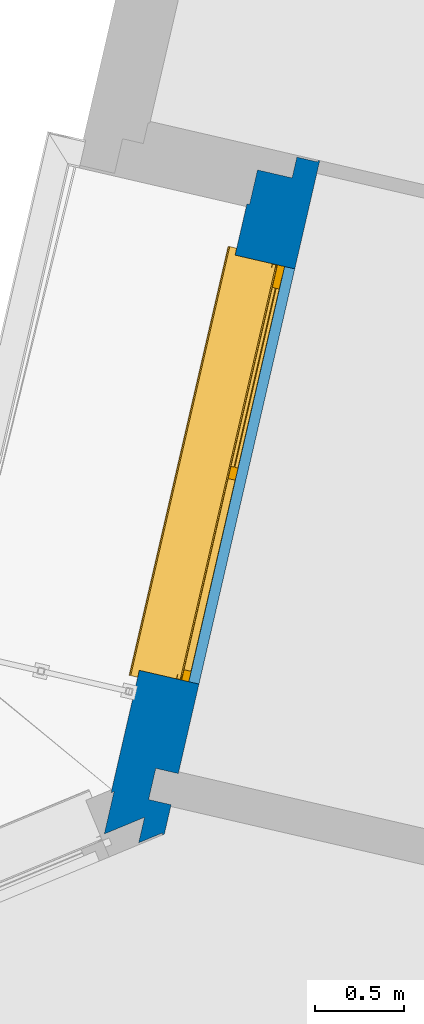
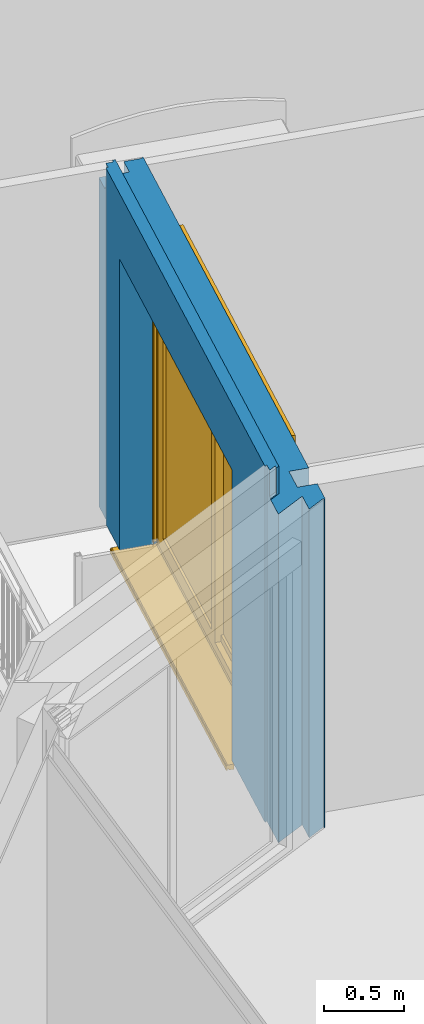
# One storey, part 22 of 90: 1 wall, 1 window, 1 opening.
"""IFC2X3 building model written with IfcOpenShell, lengths in metres."""

import ifcopenshell
import ifcopenshell.guid

model = None  # the IFC model being written
_history = None  # IfcOwnerHistory: only IFC2X3 demands one
_inside = {}  # id of a spatial element -> (the spatial element, [elements in it])
_under = {}  # id of a project, library or spatial element -> (it, [spatial elements below it])
_declared = {}  # id of a project -> (the project, [libraries it declares])
_typed = {}  # id of a type object -> (the type object, [elements of that type])
_made_of = {}  # id of a material, layer set ... -> (it, [elements and type objects made of it])


def new_model(schema):
    """Start an empty IFC model of exactly this schema.

    Asked for "IFC4X3", IfcOpenShell would pick the latest addendum, in which some entities
    have other attributes; the version numbers below select the first issue.
    IFC2X3 requires an IfcOwnerHistory on every rooted entity: one is made here for all.
    """
    global model, _history
    if schema == "IFC4X3":
        model = ifcopenshell.file(schema_version=(4, 3, 0, 0))
    else:
        model = ifcopenshell.file(schema=schema)
    _inside.clear()
    _under.clear()
    _declared.clear()
    _typed.clear()
    _made_of.clear()
    _history = None
    if model.schema == "IFC2X3":
        org = make("IfcOrganization", Name="unknown")
        user = make(
            "IfcPersonAndOrganization",
            ThePerson=make("IfcPerson", FamilyName="unknown"),
            TheOrganization=org,
        )
        app = make(
            "IfcApplication",
            ApplicationDeveloper=org,
            Version="unknown",
            ApplicationFullName="unknown",
            ApplicationIdentifier="unknown",
        )
        _history = make(
            "IfcOwnerHistory",
            OwningUser=user,
            OwningApplication=app,
            ChangeAction="ADDED",
            CreationDate=0,
        )
    return model


def make(cls, **values):
    """One entity of the class cls with the attributes given. An attribute that is None is left unset."""
    return model.create_entity(
        cls, **{name: value for name, value in values.items() if value is not None}
    )


def entity(cls, *values):
    """Any entity or typed value of the class cls, its attributes in the order of the schema. None: left unset."""
    e = model.create_entity(cls)
    for i, value in enumerate(values):
        if value is not None:
            e[i] = value
    return e


def rooted(cls, **values):
    """An entity with a GlobalId (a new one), such as an element, a storey or a relation."""
    return make(cls, GlobalId=ifcopenshell.guid.new(), OwnerHistory=_history, **values)


def si_unit(unit_type, name, prefix=None):
    """IfcSIUnit, for example si_unit("LENGTHUNIT", "METRE", prefix="MILLI")."""
    return make("IfcSIUnit", UnitType=unit_type, Prefix=prefix, Name=name)


def converted_unit(unit_type, name, factor, base, dimensions=None, offset=None):
    """IfcConversionBasedUnit, such as the inch: factor (a typed value) times the base unit."""
    return make(
        "IfcConversionBasedUnit"
        if offset is None
        else "IfcConversionBasedUnitWithOffset",
        ConversionOffset=offset,
        Dimensions=None
        if dimensions is None
        else entity("IfcDimensionalExponents", *dimensions),
        UnitType=unit_type,
        Name=name,
        ConversionFactor=make(
            "IfcMeasureWithUnit", ValueComponent=factor, UnitComponent=base
        ),
    )


def derived_unit(unit_type, elements):
    """IfcDerivedUnit: a product of units, each with its exponent."""
    return make(
        "IfcDerivedUnit",
        Elements=[
            make("IfcDerivedUnitElement", Unit=unit, Exponent=power)
            for unit, power in elements
        ],
        UnitType=unit_type,
    )


def money_unit(currency):
    """IfcMonetaryUnit."""
    return make("IfcMonetaryUnit", Currency=currency)


def assignment(units):
    """IfcUnitAssignment: the units of a project."""
    return None if units is None else make("IfcUnitAssignment", Units=units)


def point(xyz):
    """IfcCartesianPoint."""
    return None if xyz is None else make("IfcCartesianPoint", Coordinates=xyz)


def direction(xyz):
    """IfcDirection."""
    return None if xyz is None else make("IfcDirection", DirectionRatios=xyz)


def frame(location, z_axis=None, x_axis=None):
    """IfcAxis2Placement3D, a coordinate frame: its origin and axes. An axis left out is left unset."""
    return make(
        "IfcAxis2Placement3D",
        Location=point(location),
        Axis=direction(z_axis),
        RefDirection=direction(x_axis),
    )


def origin_with_axes():
    """The frame at (0, 0, 0) with the z axis (0, 0, 1) and the x axis (1, 0, 0) written out."""
    return frame((0.0, 0.0, 0.0), z_axis=(0.0, 0.0, 1.0), x_axis=(1.0, 0.0, 0.0))


def place(relative_to, where):
    """IfcLocalPlacement: puts the frame where relative to a parent placement (None: the world)."""
    return make(
        "IfcLocalPlacement", PlacementRelTo=relative_to, RelativePlacement=where
    )


def context(
    kind, dimensions, precision=None, world=None, true_north=None, identifier=None
):
    """IfcGeometricRepresentationContext, for example the 3D "Model" context."""
    return make(
        "IfcGeometricRepresentationContext",
        ContextIdentifier=identifier,
        ContextType=kind,
        CoordinateSpaceDimension=dimensions,
        Precision=precision,
        WorldCoordinateSystem=world,
        TrueNorth=true_north,
    )


def subcontext(parent, identifier, kind, view, scale=None):
    """IfcGeometricRepresentationSubContext, for example "Body" below "Model"."""
    return make(
        "IfcGeometricRepresentationSubContext",
        ContextIdentifier=identifier,
        ContextType=kind,
        ParentContext=parent,
        TargetScale=scale,
        TargetView=view,
    )


def project(units=None, contexts=None):
    """IfcProject with its units and contexts."""
    return rooted(
        "IfcProject",
        Name="project",
        RepresentationContexts=contexts,
        UnitsInContext=assignment(units),
    )


def spatial(cls, under=None, at=None, **own):
    """A site, building, storey or space (cls), placed at a placement, below another one or the project."""
    s = rooted(cls, ObjectPlacement=at, **own)
    if under is not None:
        _under.setdefault(under.id(), (under, []))[1].append(s)
    return s


def faces_of(points, faces, orient=None, outer=None):
    """IfcFace entities. A face is a list of loops; a loop is a list of indices into points, from 0.

    orient and outer hold one flag for each loop. By default every Orientation is true, the
    first loop of a face is its IfcFaceOuterBound and the others are IfcFaceBound.
    """
    made = []
    for i, loops in enumerate(faces):
        bounds = []
        for j, loop in enumerate(loops):
            is_outer = j == 0 if outer is None else outer[i][j]
            bounds.append(
                make(
                    "IfcFaceOuterBound" if is_outer else "IfcFaceBound",
                    Bound=make("IfcPolyLoop", Polygon=[points[k] for k in loop]),
                    Orientation=True if orient is None else orient[i][j],
                )
            )
        made.append(make("IfcFace", Bounds=bounds))
    return made


def open_shell(faces, orient=None, outer=None):
    """The faces of one IfcOpenShell. surface_model builds it on its shared points."""
    return ("IfcOpenShell", faces, orient, outer)


def faceted_brep(points, faces, orient=None, outer=None, voids=None):
    """IfcFacetedBrep: a solid bounded by flat faces; with voids (closed shells), ...WithVoids."""
    shared = [point(p) for p in points]
    hull = make("IfcClosedShell", CfsFaces=faces_of(shared, faces, orient, outer))
    if voids is None:
        return make("IfcFacetedBrep", Outer=hull)
    return make(
        "IfcFacetedBrepWithVoids",
        Outer=hull,
        Voids=[
            make(cls, CfsFaces=faces_of(shared, fs, o, b)) for cls, fs, o, b in voids
        ],
    )


def surface_model(cls, points, shells):
    """IfcFaceBasedSurfaceModel or IfcShellBasedSurfaceModel (cls): surfaces that need not close."""
    shared = [point(p) for p in points]
    made = [make(c, CfsFaces=faces_of(shared, fs, o, b)) for c, fs, o, b in shells]
    if cls == "IfcFaceBasedSurfaceModel":
        return make(cls, FbsmFaces=made)
    return make(cls, SbsmBoundary=made)


def shape(context_of_items, identifier, shape_type, items):
    """IfcShapeRepresentation: the items that make up one representation, for example the "Body"."""
    return make(
        "IfcShapeRepresentation",
        ContextOfItems=context_of_items,
        RepresentationIdentifier=identifier,
        RepresentationType=shape_type,
        Items=items,
    )


def source(mapping_origin, context_of_items, identifier, shape_type, items):
    """IfcRepresentationMap: a shape defined once, which mapped items show again and again."""
    return make(
        "IfcRepresentationMap",
        MappingOrigin=mapping_origin,
        MappedRepresentation=shape(context_of_items, identifier, shape_type, items),
    )


def transform(
    local_origin,
    x_axis=None,
    y_axis=None,
    z_axis=None,
    scale=None,
    scale2=None,
    scale3=None,
    uniform=True,
):
    """IfcCartesianTransformationOperator3D, or its non-uniform kind. x_axis, y_axis, z_axis: its Axis1, 2, 3."""
    if uniform:
        return make(
            "IfcCartesianTransformationOperator3D",
            Axis1=direction(x_axis),
            Axis2=direction(y_axis),
            LocalOrigin=point(local_origin),
            Scale=scale,
            Axis3=direction(z_axis),
        )
    return make(
        "IfcCartesianTransformationOperator3DnonUniform",
        Axis1=direction(x_axis),
        Axis2=direction(y_axis),
        LocalOrigin=point(local_origin),
        Scale=scale,
        Axis3=direction(z_axis),
        Scale2=scale2,
        Scale3=scale3,
    )


def mapped(mapping_source, mapping_target):
    """IfcMappedItem: shows the shape of a source again, moved by a transform."""
    return make(
        "IfcMappedItem", MappingSource=mapping_source, MappingTarget=mapping_target
    )


def material(Name=None, Category=None):
    """IfcMaterial."""
    return make("IfcMaterial", Name=Name, Category=Category)


def material_list(materials):
    """IfcMaterialList."""
    return make("IfcMaterialList", Materials=materials)


def made_of(thing, what):
    """Note that an element or type object is made of a material, layer set ...; save() writes the relation."""
    if what is not None:
        _made_of.setdefault(what.id(), (what, []))[1].append(thing)
    return thing


def type_object(cls, material=None, **own):
    """A type object (cls), such as IfcWallType, which elements share."""
    return made_of(rooted(cls, **own), material)


def element(
    cls,
    number,
    at=None,
    inside=None,
    cuts=None,
    type_object=None,
    material=None,
    context=None,
    identifier="Body",
    shape_type=None,
    held_by="IfcProductDefinitionShape",
    body=None,
    shapes=None,
    **own,
):
    """One element of the class cls, such as IfcWall. Its Tag is "e" and its number.

    at: its placement. inside: the storey or other place that contains it. cuts: it is an
    opening in that element (IfcRelVoidsElement). A single representation is given by context,
    identifier, shape_type and body (its items); several are given by shapes. held_by: the class
    of the entity that holds the representations. save() writes the other relations.
    """
    e = rooted(cls, Tag="e%d" % number, ObjectPlacement=at, **own)
    if body is not None:
        shapes = [shape(context, identifier, shape_type, body)]
    if shapes is not None:
        e.Representation = make(held_by, Representations=shapes)
    if inside is not None:
        _inside.setdefault(inside.id(), (inside, []))[1].append(e)
    if cuts is not None:
        rooted(
            "IfcRelVoidsElement", RelatingBuildingElement=cuts, RelatedOpeningElement=e
        )
    if type_object is not None:
        _typed.setdefault(type_object.id(), (type_object, []))[1].append(e)
    return made_of(e, material)


def fill(opening, filler):
    """IfcRelFillsElement: the door or window that sits in an opening."""
    return rooted(
        "IfcRelFillsElement",
        RelatingOpeningElement=opening,
        RelatedBuildingElement=filler,
    )


def aggregate(whole, parts):
    """IfcRelAggregates: a whole, such as a stair, and the parts it consists of."""
    return rooted("IfcRelAggregates", RelatingObject=whole, RelatedObjects=parts)


def save(model, path):
    """Write the relations noted so far, then the file.

    IfcRelAggregates (storeys below a building ...), IfcRelContainedInSpatialStructure (elements
    in a storey), IfcRelDefinesByType, IfcRelAssociatesMaterial and IfcRelDeclares: one each for
    every whole, place, type object, material and project.
    """
    for whole, parts in _under.values():
        aggregate(whole, parts)
    for where, things in _inside.values():
        rooted(
            "IfcRelContainedInSpatialStructure",
            RelatedElements=things,
            RelatingStructure=where,
        )
    for kind, things in _typed.values():
        rooted("IfcRelDefinesByType", RelatedObjects=things, RelatingType=kind)
    for what, things in _made_of.values():
        rooted("IfcRelAssociatesMaterial", RelatedObjects=things, RelatingMaterial=what)
    for by, libraries in _declared.values():
        rooted("IfcRelDeclares", RelatingContext=by, RelatedDefinitions=libraries)
    model.write(path)


model = new_model("IFC2X3")

# Units and contexts
model_context = context("Model", 3, precision=1e-05, world=origin_with_axes(), true_north=direction((0.0, 1.0)))
body_context = subcontext(model_context, "Body", "Model", "MODEL_VIEW")
ifc_project = project(units=[si_unit("LENGTHUNIT", "METRE"), si_unit("AREAUNIT", "SQUARE_METRE"), si_unit("VOLUMEUNIT", "CUBIC_METRE"), converted_unit("PLANEANGLEUNIT", "DEGREE", entity("IfcPlaneAngleMeasure", 0.0174532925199), si_unit("PLANEANGLEUNIT", "RADIAN"), dimensions=[0, 0, 0, 0, 0, 0, 0]), si_unit("SOLIDANGLEUNIT", "STERADIAN"), money_unit("EUR"), converted_unit("TIMEUNIT", "Year", entity("IfcTimeMeasure", 31556926.0), si_unit("TIMEUNIT", "SECOND"), dimensions=[0, 0, 1, 0, 0, 0, 0]), si_unit("MASSUNIT", "GRAM", prefix="KILO"), si_unit("THERMODYNAMICTEMPERATUREUNIT", "DEGREE_CELSIUS"), si_unit("LUMINOUSINTENSITYUNIT", "LUMEN"), si_unit("ENERGYUNIT", "JOULE", prefix="MEGA"), derived_unit("THERMALCONDUCTANCEUNIT", [(si_unit("POWERUNIT", "WATT"), 1), (si_unit("LENGTHUNIT", "METRE"), -1), (si_unit("THERMODYNAMICTEMPERATUREUNIT", "KELVIN"), -1)]), derived_unit("SPECIFICHEATCAPACITYUNIT", [(si_unit("ENERGYUNIT", "JOULE"), 1), (si_unit("MASSUNIT", "GRAM", prefix="KILO"), -1), (si_unit("THERMODYNAMICTEMPERATUREUNIT", "KELVIN"), -1)]), derived_unit("MASSDENSITYUNIT", [(si_unit("MASSUNIT", "GRAM", prefix="KILO"), 1), (si_unit("VOLUMEUNIT", "CUBIC_METRE"), -1)])], contexts=[model_context])

# Site, building, storey
site_placement = place(None, origin_with_axes())
site = spatial("IfcSite", under=ifc_project, at=site_placement, Name="Site", CompositionType="ELEMENT")
building_placement = place(site_placement, origin_with_axes())
building = spatial("IfcBuilding", under=site, at=building_placement, Name="Bâtiment", CompositionType="ELEMENT")
storey_placement = place(building_placement, frame((0.0, 0.0, 2.72), z_axis=(0.0, 0.0, 1.0), x_axis=(1.0, 0.0, 0.0)))
storey = spatial("IfcBuildingStorey", under=building, at=storey_placement, Name="R+1", CompositionType="ELEMENT", Elevation=2.72)

# Wall, opening, window
ifc_material_1 = material(Name="Finition int - Plaque de plâtre")
ifc_material_2 = material(Name="Isolation - Polystyrène extrudé")
ifc_material_3 = material(Name="Bloc ELITHERM")
ifc_material_4 = material(Name="Isolation - Polystyrène expansé")
ifc_material_5 = material(Name="Mortier")
ifc_material_6 = material(Name="Béton cellulaire")
ifc_material_7 = material(Name="Finition ext - Crépis")
ifc_material_list = material_list([ifc_material_1, ifc_material_2, ifc_material_3, ifc_material_4, ifc_material_5, ifc_material_6, ifc_material_7])
wall_type = type_object("IfcWallType", Name="Mur ALKERN + planelle 21 345 x 2720", PredefinedType="USERDEFINED")
wall_placement = place(storey_placement, frame((-19.0200334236, -9.47366806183, 0.0), z_axis=(0.0, 0.0, 1.0), x_axis=(-0.224876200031, -0.974387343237, 0.0)))
wall = element("IfcWall", 1, at=wall_placement, inside=storey, type_object=wall_type, material=ifc_material_list, Name="Mue bloc ALKERN isolé", ObjectType="SOLIDWALL", context=body_context, shape_type="Brep", body=[
    faceted_brep([(3.54839986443, 0.34499998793, 0.0), (3.37853279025, 0.34499998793, 0.0), (3.37853279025, 0.34499998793, 2.50999999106), (3.54839986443, 0.34499998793, 2.51000000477), (3.55553862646, 0.335000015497, 0.0), (3.37853279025, 0.335000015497, 0.0), (3.37853279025, 0.335000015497, 2.50999999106), (3.55553862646, 0.335000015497, 2.51000000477)], [[[0, 1, 2, 3]], [[4, 5, 1, 0]], [[5, 6, 2, 1]], [[3, 2, 6, 7]], [[7, 4, 0, 3]], [[7, 6, 5, 4]]]),
    faceted_brep([(3.19853279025, 0.34499998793, 0.0), (-0.344999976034, 0.34499998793, 0.0), (-0.344999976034, 0.34499998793, 2.51000000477), (3.19853279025, 0.34499998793, 2.50999999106), (2.68107656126, 0.34499998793, 2.22), (2.68107656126, 0.34499998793, 2.4), (0.281076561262, 0.34499998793, 2.4), (0.281076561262, 0.34499998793, 2.22), (0.281076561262, 0.34499998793, 0.02), (2.68107656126, 0.34499998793, 0.02), (3.19853279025, 0.335000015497, 0.0), (-0.344999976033, 0.335000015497, 0.0), (-0.344999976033, 0.335000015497, 2.51000000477), (3.19853279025, 0.335000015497, 2.50999999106), (2.68107656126, 0.335000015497, 2.22), (2.68107656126, 0.335000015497, 2.4), (0.281076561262, 0.335000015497, 2.4), (0.281076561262, 0.335000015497, 2.22), (0.281076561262, 0.335000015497, 0.02), (2.68107656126, 0.335000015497, 0.02)], [[[0, 1, 2, 3], [4, 5, 6, 7, 8, 9]], [[10, 11, 1, 0]], [[12, 2, 1, 11]], [[3, 2, 12, 13]], [[3, 13, 10, 0]], [[5, 4, 14, 15]], [[6, 5, 15, 16]], [[7, 6, 16, 17]], [[7, 17, 18, 8]], [[8, 18, 19, 9]], [[14, 4, 9, 19]], [[13, 12, 11, 10], [15, 14, 19, 18, 17, 16]]]),
    faceted_brep([(3.54325200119, 0.335000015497, 0.0), (3.37853279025, 0.335000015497, 0.0), (3.37853279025, 0.335000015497, 2.50999999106), (3.54325200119, 0.335000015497, 2.51), (3.62891738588, 0.215000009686, 0.0), (3.37853279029, 0.215000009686, 0.0), (3.37853279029, 0.215000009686, 2.50999999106), (3.62891738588, 0.215000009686, 2.51)], [[[0, 1, 2, 3]], [[4, 5, 1, 0]], [[5, 6, 2, 1]], [[3, 2, 6, 7]], [[4, 0, 3, 7]], [[7, 6, 5, 4]]]),
    faceted_brep([(0.281076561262, 0.215000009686, 0.02), (0.281076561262, 0.215000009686, 0.0), (0.281076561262, 0.286, 0.0), (0.281076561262, 0.286, 0.02), (0.281076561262, 0.335000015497, 0.02), (0.281076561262, 0.335000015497, 2.22), (0.281076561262, 0.335000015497, 2.4), (0.281076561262, 0.215, 2.4), (0.281076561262, 0.215, 2.22), (2.68107656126, 0.215, 2.4), (2.68107656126, 0.215, 2.22), (2.68107656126, 0.215000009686, 0.02), (2.68107656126, 0.215000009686, 0.0), (3.19853279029, 0.215000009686, 0.0), (3.19853279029, 0.215000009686, 2.50999999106), (-0.335000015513, 0.215000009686, 2.51), (-0.335000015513, 0.215000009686, 0.0), (-0.335000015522, 0.335000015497, 0.0), (3.19853279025, 0.335000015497, 0.0), (2.68107656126, 0.286, 0.0), (2.68107656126, 0.286, 0.02), (2.68107656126, 0.335000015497, 0.02), (-0.335000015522, 0.335000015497, 2.51), (3.19853279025, 0.335000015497, 2.50999999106), (2.68107656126, 0.335000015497, 2.22), (2.68107656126, 0.335000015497, 2.4)], [[[0, 1, 2, 3, 4, 5, 6, 7, 8]], [[1, 0, 8, 7, 9, 10, 11, 12, 13, 14, 15, 16]], [[2, 1, 16, 17, 18, 13, 12, 19]], [[20, 3, 2, 19]], [[3, 20, 21, 4]], [[22, 23, 18, 17], [5, 4, 21, 24, 25, 6]], [[25, 9, 7, 6]], [[20, 19, 12, 11, 10, 9, 25, 24, 21]], [[13, 18, 23, 14]], [[15, 14, 23, 22]], [[16, 15, 22, 17]]]),
    faceted_brep([(0.281076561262, 0.214999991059, 2.22), (0.281076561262, 0.214999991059, 0.02), (0.281076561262, 0.214999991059, 0.0), (-0.215000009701, 0.214999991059, 0.0), (-0.215000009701, 0.214999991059, 2.51), (3.48147737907, 0.214999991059, 2.51), (3.48147737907, 0.214999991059, 0.0), (2.68107656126, 0.214999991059, 0.0), (2.68107656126, 0.214999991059, 0.02), (2.68107656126, 0.214999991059, 2.22), (0.281076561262, 0.015, 2.22), (0.281076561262, 0.015, 0.02), (0.281076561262, 0.015, 0.0), (-0.215000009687, 0.015, 0.0), (-0.215000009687, 0.015, 2.51), (-0.215000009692, 0.0829999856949, 2.51), (3.57570930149, 0.0829999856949, 2.51), (3.62425300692, 0.015, 2.51), (3.62425300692, 0.015, 0.0), (2.68107656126, 0.015, 0.0), (2.68107656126, 0.015, 0.02), (2.68107656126, 0.015, 2.22)], [[[0, 1, 2, 3, 4, 5, 6, 7, 8, 9]], [[10, 11, 12, 2, 1, 0]], [[3, 2, 12, 13]], [[13, 14, 15, 4, 3]], [[15, 16, 5, 4]], [[17, 18, 6, 5, 16]], [[18, 19, 7, 6]], [[9, 8, 7, 19, 20, 21]], [[0, 9, 21, 10]], [[13, 12, 11, 10, 21, 20, 19, 18, 17, 14]], [[14, 17, 16, 15]]]),
    faceted_brep([(3.41352526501, 0.083000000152, 2.72), (3.41352526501, 0.083000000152, 2.51999998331), (-0.0829999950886, 0.083000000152, 2.51999998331), (-0.0829999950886, 0.083000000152, 2.72), (3.42780282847, 0.0630000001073, 2.72), (3.42780282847, 0.0630000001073, 2.51999998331), (-0.0829999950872, 0.0630000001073, 2.51999998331), (-0.0829999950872, 0.0630000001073, 2.72)], [[[0, 1, 2, 3]], [[4, 5, 1, 0]], [[1, 5, 6, 2]], [[2, 6, 7, 3]], [[4, 0, 3, 7]], [[5, 4, 7, 6]]]),
    faceted_brep([(-0.0829999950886, 0.083, 2.51000000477), (-0.0829999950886, 0.083, 2.51999998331), (3.41352526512, 0.083, 2.51999998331), (3.41352526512, 0.083, 2.51000000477), (-0.0829999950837, 0.015, 2.51000000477), (-0.0829999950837, 0.015, 2.51999998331), (3.46206898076, 0.015, 2.51999998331), (3.46206898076, 0.015, 2.51000000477)], [[[0, 1, 2, 3]], [[1, 0, 4, 5]], [[1, 5, 6, 2]], [[3, 2, 6, 7]], [[4, 0, 3, 7]], [[5, 4, 7, 6]]]),
    faceted_brep([(-0.0630000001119, 0.0629999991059, 2.51999999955), (-0.0630000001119, 0.0629999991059, 2.72), (3.40322949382, 0.0629999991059, 2.72), (3.40322949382, 0.0629999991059, 2.51999999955), (-0.0630000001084, 0.015, 2.72), (-0.0630000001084, 0.015, 2.51999999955), (3.4374956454, 0.015, 2.72), (3.4374956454, 0.015, 2.51999999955)], [[[0, 1, 2, 3]], [[4, 1, 0, 5]], [[1, 4, 6, 2]], [[3, 2, 6, 7]], [[5, 0, 3, 7]], [[4, 5, 7, 6]]]),
    faceted_brep([(0.281076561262, 0.0149999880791, 0.02), (0.281076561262, 0.0149999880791, 0.0), (-0.0150000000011, 0.0149999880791, 0.0), (-0.0150000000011, 0.0149999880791, 2.72), (3.37851964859, 0.0149999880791, 2.72), (3.37851964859, 0.0149999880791, 0.0), (2.68107656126, 0.0149999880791, 0.0), (2.68107656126, 0.0149999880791, 0.02), (2.68107656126, 0.0149999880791, 2.22), (0.281076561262, 0.0149999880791, 2.22), (0.281076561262, 0.0, 0.02), (0.281076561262, 0.0, 0.0), (0.281076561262, 0.0, 2.22), (-0.015, 0.0, 0.0), (-0.015, 0.0, 2.72), (3.38922781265, 0.0, 2.72), (3.38922781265, 0.0, 0.0), (2.68107656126, 0.0, 0.0), (2.68107656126, 0.0, 0.02), (2.68107656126, 0.0, 2.22)], [[[0, 1, 2, 3, 4, 5, 6, 7, 8, 9]], [[10, 11, 1, 0, 9, 12]], [[1, 11, 13, 2]], [[3, 2, 13, 14]], [[14, 15, 4, 3]], [[15, 16, 5, 4]], [[17, 6, 5, 16]], [[7, 6, 17, 18, 19, 8]], [[8, 19, 12, 9]], [[11, 10, 12, 19, 18, 17, 16, 15, 14, 13]]]),
])
opening_placement = place(wall_placement, frame((1.48107656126, 0.0, 0.02), z_axis=(0.0, 0.0, 1.0), x_axis=(1.0, 0.0, 0.0)))
opening = element("IfcOpeningElement", 2, at=opening_placement, cuts=wall, Name="MEN 49", context=body_context, shape_type="Brep", body=[
    faceted_brep([(-1.2, 0.83499998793, 0.0), (1.2, 0.83499998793, 0.0), (1.2, 0.245, 0.0), (-1.2, 0.245, 0.0), (-1.2, 0.83499998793, 2.2), (1.2, 0.83499998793, 2.2), (1.2, 0.245, 2.2), (-1.2, 0.245, 2.2)], [[[0, 1, 2, 3]], [[0, 4, 5, 1]], [[1, 5, 6, 2]], [[3, 2, 6, 7]], [[4, 0, 3, 7]], [[5, 4, 7, 6]]]),
    faceted_brep([(-1.2, -0.34499998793, 0.0), (-1.2, -0.34499998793, 2.2), (-1.2, 0.245, 2.2), (-1.2, 0.245, 0.0), (1.2, -0.34499998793, 0.0), (1.2, -0.34499998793, 2.2), (1.2, 0.245, 2.2), (1.2, 0.245, 0.0)], [[[0, 1, 2, 3]], [[0, 4, 5, 1]], [[1, 5, 6, 2]], [[3, 2, 6, 7]], [[4, 0, 3, 7]], [[5, 4, 7, 6]]]),
    faceted_brep([(-1.2, -0.34499998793, 0.0), (-1.2, -0.34499998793, 2.2), (-1.2, 0.245, 2.2), (-1.2, 0.245, 0.0), (1.2, -0.34499998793, 0.0), (1.2, -0.34499998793, 2.2), (1.2, 0.245, 2.2), (1.2, 0.245, 0.0)], [[[0, 1, 2, 3]], [[0, 4, 5, 1]], [[1, 5, 6, 2]], [[3, 2, 6, 7]], [[4, 0, 3, 7]], [[5, 4, 7, 6]]]),
    faceted_brep([(-1.2, 0.80499998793, 2.2), (1.2, 0.80499998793, 2.2), (1.2, 0.215, 2.2), (-1.2, 0.215, 2.2), (-1.2, 0.80499998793, 2.38), (1.2, 0.80499998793, 2.38), (1.2, 0.215, 2.38), (-1.2, 0.215, 2.38)], [[[0, 1, 2, 3]], [[0, 4, 5, 1]], [[1, 5, 6, 2]], [[3, 2, 6, 7]], [[4, 0, 3, 7]], [[5, 4, 7, 6]]]),
    faceted_brep([(-1.2, -0.30399998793, 0.0), (1.2, -0.30399998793, 0.0), (1.2, 0.286, 0.0), (-1.2, 0.286, 0.0), (-1.2, -0.30399998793, -0.06), (1.2, -0.30399998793, -0.06), (1.2, 0.286, -0.06), (-1.2, 0.286, -0.06)], [[[0, 1, 2, 3]], [[0, 4, 5, 1]], [[1, 5, 6, 2]], [[3, 2, 6, 7]], [[4, 0, 3, 7]], [[5, 4, 7, 6]]]),
])
window_style = type_object("IfcWindowStyle", Name="Baie générique 2017 v2", ConstructionType="NOTDEFINED", OperationType="NOTDEFINED", ParameterTakesPrecedence=False, Sizeable=False)
shared_shape = source(origin_with_axes(), body_context, "Body", "SurfaceModel", [
    faceted_brep([(-1.2, 0.1, 0.0), (1.2, 0.1, 0.0), (1.2, 0.0, 0.0), (-1.2, 0.0, 0.0), (-1.2, 0.1, 2.2), (1.2, 0.1, 2.2), (-1.14, 0.1, 0.05), (1.14, 0.1, 0.05), (1.14, 0.1, 2.15), (-1.14, 0.1, 2.15), (1.2, 0.0, 2.2), (-1.2, 0.0, 2.2), (-1.14, 0.0, 0.05), (-1.14, 0.0, 2.15), (1.14, 0.0, 2.15), (1.14, 0.0, 0.05)], [[[0, 1, 2, 3]], [[0, 4, 5, 1], [6, 7, 8, 9]], [[1, 5, 10, 2]], [[3, 2, 10, 11], [12, 13, 14, 15]], [[4, 0, 3, 11]], [[5, 4, 11, 10]], [[7, 6, 12, 15]], [[8, 7, 15, 14]], [[9, 8, 14, 13]], [[6, 9, 13, 12]]]),
    faceted_brep([(-1.14, 0.04, 0.05), (-1.14, 0.04, 2.15), (0.035, 0.04, 2.15), (0.035, 0.04, 0.05), (-0.035, 0.04, 2.08), (-1.07, 0.04, 2.08), (-1.07, 0.04, 0.1), (-0.035, 0.04, 0.1), (-1.14, 0.0, 2.15), (-1.14, 0.02, 2.15), (-1.14, 0.02, 0.05), (-1.14, 0.0, 0.05), (0.035, 0.0, 2.15), (0.035, 0.02, 2.15), (0.035, 0.0, 0.05), (0.035, 0.02, 0.05), (-0.035, 0.0, 2.08), (-1.07, 0.0, 2.08), (-1.07, 0.0, 0.1), (-0.035, 0.0, 0.1)], [[[0, 1, 2, 3], [4, 5, 6, 7]], [[8, 9, 1, 0, 10, 11]], [[12, 13, 2, 1, 9, 8]], [[13, 12, 14, 15, 3, 2]], [[15, 14, 11, 10, 0, 3]], [[5, 4, 16, 17]], [[18, 6, 5, 17]], [[19, 7, 6, 18]], [[4, 7, 19, 16]], [[12, 8, 11, 14], [19, 18, 17, 16]]]),
    surface_model("IfcShellBasedSurfaceModel", [(-1.14, 0.04, 0.05), (-1.14, 0.04, 2.15), (0.035, 0.04, 2.15), (0.035, 0.04, 0.05), (-1.07, 0.04, 0.1), (-0.035, 0.04, 0.1), (-0.035, 0.04, 2.08), (-1.07, 0.04, 2.08)], [open_shell([[[0, 1, 2, 3], [4, 5, 6, 7]]])]),
    surface_model("IfcShellBasedSurfaceModel", [(-1.14, 0.0, 0.05), (-1.14, 0.0, 2.15), (0.035, 0.0, 2.15), (0.035, 0.0, 0.05), (-1.07, 0.0, 0.1), (-0.035, 0.0, 0.1), (-0.035, 0.0, 2.08), (-1.07, 0.0, 2.08)], [open_shell([[[0, 1, 2, 3], [4, 5, 6, 7]]])]),
    faceted_brep([(-1.07, 0.0225, 0.1), (-0.035, 0.0225, 0.1), (-0.035, 0.0175, 0.1), (-1.07, 0.0175, 0.1), (-1.07, 0.0225, 2.08), (-0.035, 0.0225, 2.08), (-0.035, 0.0175, 2.08), (-1.07, 0.0175, 2.08)], [[[0, 1, 2, 3]], [[0, 4, 5, 1]], [[1, 5, 6, 2]], [[3, 2, 6, 7]], [[4, 0, 3, 7]], [[5, 4, 7, 6]]]),
    faceted_brep([(-0.035, 0.08, 0.05), (-0.035, 0.08, 2.15), (1.14, 0.08, 2.15), (1.14, 0.08, 0.05), (1.07, 0.08, 2.08), (0.035, 0.08, 2.08), (0.035, 0.08, 0.1), (1.07, 0.08, 0.1), (-0.035, 0.04, 2.15), (-0.035, 0.06, 2.15), (-0.035, 0.06, 0.05), (-0.035, 0.04, 0.05), (1.14, 0.04, 2.15), (1.14, 0.06, 2.15), (1.14, 0.04, 0.05), (1.14, 0.06, 0.05), (1.07, 0.04, 2.08), (0.035, 0.04, 2.08), (0.035, 0.04, 0.1), (1.07, 0.04, 0.1)], [[[0, 1, 2, 3], [4, 5, 6, 7]], [[8, 9, 1, 0, 10, 11]], [[12, 13, 2, 1, 9, 8]], [[13, 12, 14, 15, 3, 2]], [[15, 14, 11, 10, 0, 3]], [[5, 4, 16, 17]], [[18, 6, 5, 17]], [[19, 7, 6, 18]], [[4, 7, 19, 16]], [[12, 8, 11, 14], [19, 18, 17, 16]]]),
    surface_model("IfcShellBasedSurfaceModel", [(-0.035, 0.08, 0.05), (-0.035, 0.08, 2.15), (1.14, 0.08, 2.15), (1.14, 0.08, 0.05), (0.035, 0.08, 0.1), (1.07, 0.08, 0.1), (1.07, 0.08, 2.08), (0.035, 0.08, 2.08)], [open_shell([[[0, 1, 2, 3], [4, 5, 6, 7]]])]),
    surface_model("IfcShellBasedSurfaceModel", [(-0.035, 0.04, 0.05), (-0.035, 0.04, 2.15), (1.14, 0.04, 2.15), (1.14, 0.04, 0.05), (0.035, 0.04, 0.1), (1.07, 0.04, 0.1), (1.07, 0.04, 2.08), (0.035, 0.04, 2.08)], [open_shell([[[0, 1, 2, 3], [4, 5, 6, 7]]])]),
    faceted_brep([(0.035, 0.0625, 0.1), (1.07, 0.0625, 0.1), (1.07, 0.0575, 0.1), (0.035, 0.0575, 0.1), (0.035, 0.0625, 2.08), (1.07, 0.0625, 2.08), (1.07, 0.0575, 2.08), (0.035, 0.0575, 2.08)], [[[0, 1, 2, 3]], [[0, 4, 5, 1]], [[1, 5, 6, 2]], [[3, 2, 6, 7]], [[4, 0, 3, 7]], [[5, 4, 7, 6]]]),
    faceted_brep([(-1.2, -0.03, 0.0), (-1.175, -0.03, 0.0), (-1.175, -0.03, 2.2), (-1.2, -0.03, 2.2), (-1.2, -0.002, 0.0), (-1.175, -0.002, 0.0), (-1.175, -0.004, 0.0), (-1.198, -0.004, 0.0), (-1.198, -0.028, 0.0), (-1.175, -0.028, 0.0), (-1.175, -0.028, 2.2), (-1.198, -0.028, 2.2), (-1.198, -0.004, 2.2), (-1.175, -0.004, 2.2), (-1.175, -0.002, 2.2), (-1.2, -0.002, 2.2)], [[[0, 1, 2, 3]], [[0, 4, 5, 6, 7, 8, 9, 1]], [[1, 9, 10, 2]], [[3, 2, 10, 11, 12, 13, 14, 15]], [[4, 0, 3, 15]], [[5, 4, 15, 14]], [[6, 5, 14, 13]], [[7, 6, 13, 12]], [[8, 7, 12, 11]], [[9, 8, 11, 10]]]),
    faceted_brep([(1.2, -0.03, 0.0), (1.2, -0.03, 2.2), (1.175, -0.03, 2.2), (1.175, -0.03, 0.0), (1.2, -0.002, 0.0), (1.2, -0.002, 2.2), (1.175, -0.002, 2.2), (1.175, -0.004, 2.2), (1.198, -0.004, 2.2), (1.198, -0.028, 2.2), (1.175, -0.028, 2.2), (1.175, -0.028, 0.0), (1.198, -0.028, 0.0), (1.198, -0.004, 0.0), (1.175, -0.004, 0.0), (1.175, -0.002, 0.0)], [[[0, 1, 2, 3]], [[4, 5, 1, 0]], [[1, 5, 6, 7, 8, 9, 10, 2]], [[3, 2, 10, 11]], [[0, 3, 11, 12, 13, 14, 15, 4]], [[15, 6, 5, 4]], [[14, 7, 6, 15]], [[13, 8, 7, 14]], [[12, 9, 8, 13]], [[11, 10, 9, 12]]]),
    faceted_brep([(1.198, -0.028, 2.2), (-1.198, -0.028, 2.2), (-1.198, -0.028, 2.378), (1.198, -0.028, 2.378), (1.198, -0.03, 2.2), (-1.198, -0.03, 2.2), (-1.198, -0.03, 2.38), (-1.198, 0.17, 2.38), (-1.198, 0.17, 2.2), (-1.198, 0.168, 2.2), (-1.198, 0.168, 2.378), (1.198, 0.168, 2.378), (1.198, 0.168, 2.2), (1.198, 0.17, 2.2), (1.198, 0.17, 2.38), (1.198, -0.03, 2.38)], [[[0, 1, 2, 3]], [[4, 5, 1, 0]], [[1, 5, 6, 7, 8, 9, 10, 2]], [[3, 2, 10, 11]], [[0, 3, 11, 12, 13, 14, 15, 4]], [[15, 6, 5, 4]], [[14, 7, 6, 15]], [[13, 8, 7, 14]], [[12, 9, 8, 13]], [[11, 10, 9, 12]]]),
    faceted_brep([(1.198, 0.0724697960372, 2.27436337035), (1.198, 0.08, 2.29), (1.198, 0.0724697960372, 2.30563662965), (1.198, 0.0555495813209, 2.30949855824), (1.198, 0.041980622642, 2.29867767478), (1.198, 0.041980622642, 2.28132232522), (1.198, 0.0555495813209, 2.27050144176), (-1.198, 0.0724697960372, 2.27436337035), (-1.198, 0.08, 2.29), (-1.198, 0.0724697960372, 2.30563662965), (-1.198, 0.0555495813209, 2.30949855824), (-1.198, 0.041980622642, 2.29867767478), (-1.198, 0.041980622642, 2.28132232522), (-1.198, 0.0555495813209, 2.27050144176)], [[[0, 1, 2, 3, 4, 5, 6]], [[0, 7, 8, 1]], [[1, 8, 9, 2]], [[2, 9, 10, 3]], [[3, 10, 11, 4]], [[4, 11, 12, 5]], [[5, 12, 13, 6]], [[6, 13, 7, 0]], [[7, 13, 12, 11, 10, 9, 8]]]),
    faceted_brep([(1.188, 0.130275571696, 2.25615706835), (1.188, 0.138, 2.29), (1.188, 0.130275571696, 2.32384293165), (1.188, 0.108632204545, 2.35098285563), (1.188, 0.0773566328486, 2.36604437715), (1.188, 0.0426433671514, 2.36604437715), (1.188, 0.011367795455, 2.35098285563), (1.188, -0.0102755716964, 2.32384293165), (1.188, -0.018, 2.29), (1.188, -0.0102755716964, 2.25615706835), (1.188, 0.011367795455, 2.22901714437), (1.188, 0.0426433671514, 2.21395562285), (1.188, 0.0773566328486, 2.21395562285), (1.188, 0.108632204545, 2.22901714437), (-1.188, 0.130275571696, 2.25615706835), (-1.188, 0.138, 2.29), (-1.188, 0.130275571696, 2.32384293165), (-1.188, 0.108632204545, 2.35098285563), (-1.188, 0.0773566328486, 2.36604437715), (-1.188, 0.0426433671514, 2.36604437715), (-1.188, 0.011367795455, 2.35098285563), (-1.188, -0.0102755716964, 2.32384293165), (-1.188, -0.018, 2.29), (-1.188, -0.0102755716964, 2.25615706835), (-1.188, 0.011367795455, 2.22901714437), (-1.188, 0.0426433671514, 2.21395562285), (-1.188, 0.0773566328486, 2.21395562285), (-1.188, 0.108632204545, 2.22901714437)], [[[0, 1, 2, 3, 4, 5, 6, 7, 8, 9, 10, 11, 12, 13]], [[0, 14, 15, 1]], [[1, 15, 16, 2]], [[2, 16, 17, 3]], [[3, 17, 18, 4]], [[4, 18, 19, 5]], [[5, 19, 20, 6]], [[6, 20, 21, 7]], [[7, 21, 22, 8]], [[8, 22, 23, 9]], [[9, 23, 24, 10]], [[10, 24, 25, 11]], [[11, 25, 26, 12]], [[12, 26, 27, 13]], [[13, 27, 14, 0]], [[14, 27, 26, 25, 24, 23, 22, 21, 20, 19, 18, 17, 16, 15]]]),
    faceted_brep([(1.2, 0.17, 2.2), (1.198, 0.17, 2.2), (1.198, 0.17, 2.38), (1.2, 0.17, 2.38), (1.2, -0.03, 2.2), (1.198, -0.03, 2.2), (1.198, -0.03, 2.38), (1.2, -0.03, 2.38)], [[[0, 1, 2, 3]], [[4, 5, 1, 0]], [[1, 5, 6, 2]], [[3, 2, 6, 7]], [[0, 3, 7, 4]], [[7, 6, 5, 4]]]),
    faceted_brep([(-1.198, 0.17, 2.2), (-1.2, 0.17, 2.2), (-1.2, 0.17, 2.38), (-1.198, 0.17, 2.38), (-1.198, -0.03, 2.2), (-1.2, -0.03, 2.2), (-1.2, -0.03, 2.38), (-1.198, -0.03, 2.38)], [[[0, 1, 2, 3]], [[4, 5, 1, 0]], [[1, 5, 6, 2]], [[3, 2, 6, 7]], [[0, 3, 7, 4]], [[7, 6, 5, 4]]]),
    faceted_brep([(1.198, -0.004, 2.2), (-1.198, -0.004, 2.2), (-1.198, 0.168, 2.2), (1.198, 0.168, 2.2), (1.198, -0.004, 2.202), (-1.198, -0.004, 2.202), (-1.198, 0.168, 2.202), (1.198, 0.168, 2.202)], [[[0, 1, 2, 3]], [[4, 5, 1, 0]], [[1, 5, 6, 2]], [[3, 2, 6, 7]], [[0, 3, 7, 4]], [[7, 6, 5, 4]]]),
    faceted_brep([(-1.188, -0.006, 2.2), (-1.188, -0.006, 2.29), (1.188, -0.006, 2.29), (1.188, -0.006, 2.2), (-1.188, -0.026, 2.2), (-1.188, -0.026, 2.29), (1.188, -0.026, 2.29), (1.188, -0.026, 2.2)], [[[0, 1, 2, 3]], [[1, 0, 4, 5]], [[2, 1, 5, 6]], [[3, 2, 6, 7]], [[4, 0, 3, 7]], [[5, 4, 7, 6]]]),
    faceted_brep([(1.2, -0.00167949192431, -0.01), (1.2, 0.0, -0.00373205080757), (1.24, 0.0, -0.00373205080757), (1.24, 0.001, 0.0), (-1.24, 0.001, 0.0), (-1.24, 0.0, -0.00373205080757), (-1.2, 0.0, -0.00373205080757), (-1.2, -0.00167949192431, -0.01), (1.2, -0.009, -0.0173205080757), (1.2, -0.019, -0.02), (1.2, -0.245, -0.02), (1.2, -0.245, -0.06), (1.2, 0.0, -0.06), (1.24, 0.0, -0.06), (1.24, 0.041, -0.06), (1.24, 0.041, 0.0), (-1.24, 0.041, 0.0), (-1.24, 0.041, -0.06), (-1.24, 0.0, -0.06), (-1.2, 0.0, -0.06), (-1.2, -0.245, -0.02), (-1.2, -0.019, -0.02), (-1.2, -0.009, -0.0173205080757), (-1.2, -0.245, -0.06), (-1.24, -0.245, -0.02), (-1.24, -0.285, -0.02), (1.24, -0.285, -0.02), (1.24, -0.245, -0.02), (1.24, -0.245, -0.06), (1.24, -0.275, -0.06), (-1.24, -0.275, -0.06), (-1.24, -0.245, -0.06), (-1.24, -0.295, -0.03), (-1.24, -0.292071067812, -0.0229289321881), (-1.24, -0.275, -0.05), (-1.24, -0.285, -0.05), (-1.24, -0.285, -0.06), (-1.24, -0.295, -0.06), (1.24, -0.292071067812, -0.0229289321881), (1.24, -0.295, -0.03), (1.24, -0.295, -0.06), (1.24, -0.285, -0.06), (1.24, -0.285, -0.05), (1.24, -0.275, -0.05)], [[[0, 1, 2, 3, 4, 5, 6, 7]], [[1, 0, 8, 9, 10, 11, 12]], [[13, 2, 1, 12]], [[2, 13, 14, 15, 3]], [[16, 4, 3, 15]], [[4, 16, 17, 18, 5]], [[5, 18, 19, 6]], [[20, 21, 22, 7, 6, 19, 23]], [[8, 0, 7, 22]], [[9, 8, 22, 21]], [[10, 9, 21, 20, 24, 25, 26, 27]], [[10, 27, 28, 11]], [[11, 28, 29, 30, 31, 23, 19, 18, 17, 14, 13, 12]], [[17, 16, 15, 14]], [[20, 23, 31, 24]], [[32, 33, 25, 24, 31, 30, 34, 35, 36, 37]], [[25, 33, 38, 26]], [[28, 27, 26, 38, 39, 40, 41, 42, 43, 29]], [[34, 30, 29, 43]], [[33, 32, 39, 38]], [[35, 34, 43, 42]], [[36, 35, 42, 41]], [[37, 36, 41, 40]], [[32, 37, 40, 39]]]),
])
window_placement = place(opening_placement, frame((-1.2, 0.0, 0.0), z_axis=(0.0, 0.0, 1.0), x_axis=(1.0, 0.0, 0.0)))
window = element("IfcWindow", 3, at=window_placement, inside=storey, type_object=window_style, Name="MEN 49", ObjectType="WINDOW", OverallHeight=2.2, OverallWidth=2.4, context=body_context, shape_type="MappedRepresentation", body=[
    mapped(shared_shape, transform((1.2, 0.245, 0.0))),
])
fill(opening, window)

save(model, "model.ifc")
